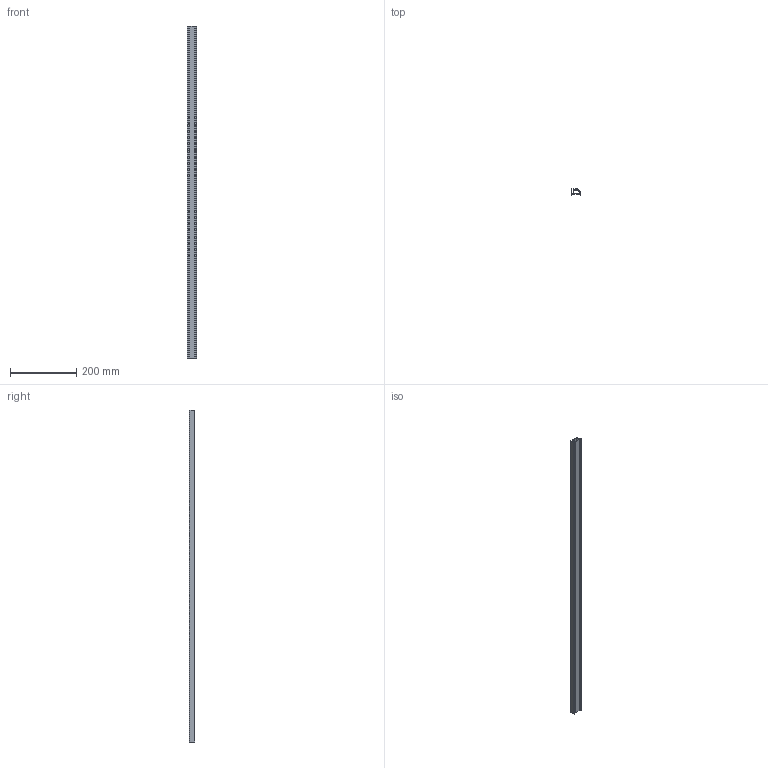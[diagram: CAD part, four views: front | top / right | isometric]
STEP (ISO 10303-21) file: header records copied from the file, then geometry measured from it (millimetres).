
FILE_DESCRIPTION (( 'STEP AP214' ), '1' );
FILE_NAME ('A40833.step', '2024-12-03T16:13:51', ( '' ), ( '' ), 'SwSTEP 2.0', 'SolidWorks 2023', '' );
FILE_SCHEMA (( 'AUTOMOTIVE_DESIGN' ));
Length unit declared in the file: millimetre
Products named in the file (1): A40833
Bounding box: 30 x 17 x 1000 mm (x, y, z)
Volume: 146363.1 mm3; surface area: 161876 mm2
Topology: 1 solids, 1 shells, 34 faces, 96 edges, 64 vertices
Faces by surface type: plane 19, cylinder 15
Entity records: 1133 total; most frequent: DIRECTION 196, CARTESIAN_POINT 195, ORIENTED_EDGE 192, EDGE_CURVE 96, LINE 66, VECTOR 66, AXIS2_PLACEMENT_3D 65, VERTEX_POINT 64
